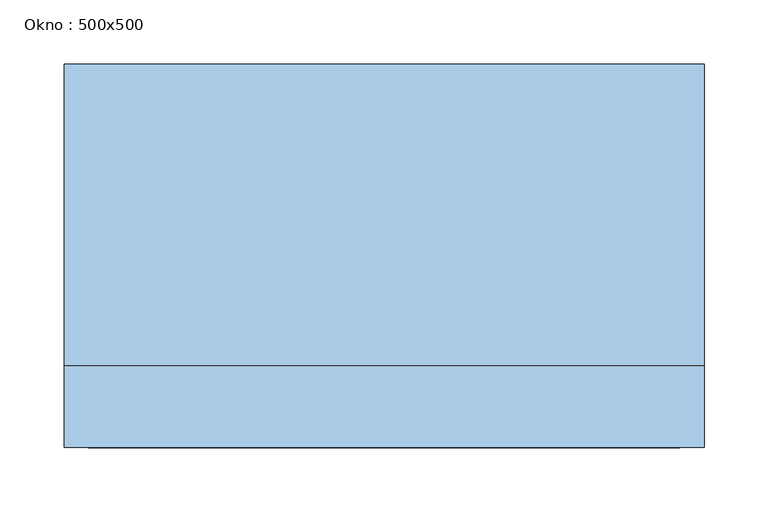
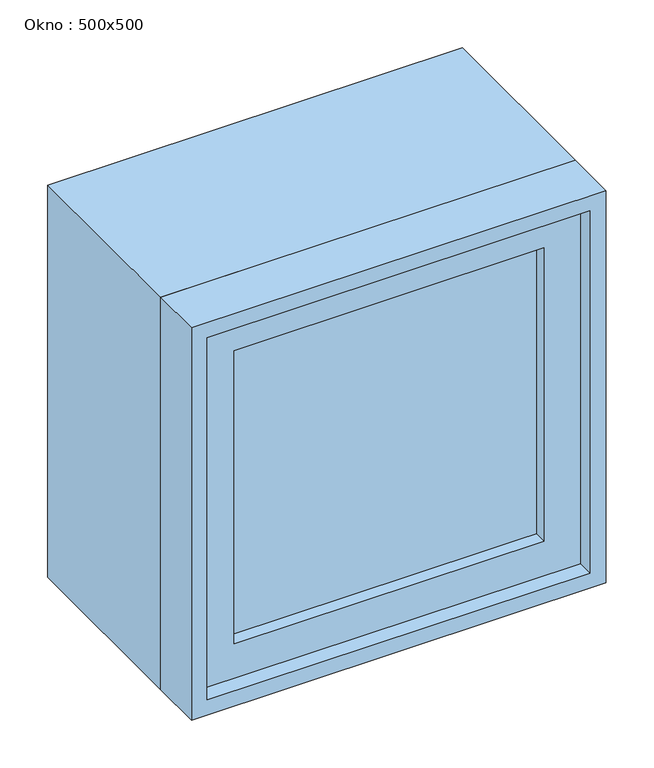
"""IFC4 building model written with IfcOpenShell, lengths in millimetres: window geometry, Okno : 500x500."""

import ifcopenshell
import ifcopenshell.guid

model = None  # the IFC model being written
_history = None  # IfcOwnerHistory: only IFC2X3 demands one
_inside = {}  # id of a spatial element -> (the spatial element, [elements in it])
_under = {}  # id of a project, library or spatial element -> (it, [spatial elements below it])
_declared = {}  # id of a project -> (the project, [libraries it declares])
_typed = {}  # id of a type object -> (the type object, [elements of that type])
_made_of = {}  # id of a material, layer set ... -> (it, [elements and type objects made of it])


def new_model(schema):
    """Start an empty IFC model of exactly this schema.

    Asked for "IFC4X3", IfcOpenShell would pick the latest addendum, in which some entities
    have other attributes; the version numbers below select the first issue.
    IFC2X3 requires an IfcOwnerHistory on every rooted entity: one is made here for all.
    """
    global model, _history
    if schema == "IFC4X3":
        model = ifcopenshell.file(schema_version=(4, 3, 0, 0))
    else:
        model = ifcopenshell.file(schema=schema)
    _inside.clear()
    _under.clear()
    _declared.clear()
    _typed.clear()
    _made_of.clear()
    _history = None
    if model.schema == "IFC2X3":
        org = make("IfcOrganization", Name="unknown")
        user = make(
            "IfcPersonAndOrganization",
            ThePerson=make("IfcPerson", FamilyName="unknown"),
            TheOrganization=org,
        )
        app = make(
            "IfcApplication",
            ApplicationDeveloper=org,
            Version="unknown",
            ApplicationFullName="unknown",
            ApplicationIdentifier="unknown",
        )
        _history = make(
            "IfcOwnerHistory",
            OwningUser=user,
            OwningApplication=app,
            ChangeAction="ADDED",
            CreationDate=0,
        )
    return model


def make(cls, **values):
    """One entity of the class cls with the attributes given. An attribute that is None is left unset."""
    return model.create_entity(
        cls, **{name: value for name, value in values.items() if value is not None}
    )


def rooted(cls, **values):
    """An entity with a GlobalId (a new one), such as an element, a storey or a relation."""
    return make(cls, GlobalId=ifcopenshell.guid.new(), OwnerHistory=_history, **values)


def si_unit(unit_type, name, prefix=None):
    """IfcSIUnit, for example si_unit("LENGTHUNIT", "METRE", prefix="MILLI")."""
    return make("IfcSIUnit", UnitType=unit_type, Prefix=prefix, Name=name)


def assignment(units):
    """IfcUnitAssignment: the units of a project."""
    return None if units is None else make("IfcUnitAssignment", Units=units)


def point(xyz):
    """IfcCartesianPoint."""
    return None if xyz is None else make("IfcCartesianPoint", Coordinates=xyz)


def direction(xyz):
    """IfcDirection."""
    return None if xyz is None else make("IfcDirection", DirectionRatios=xyz)


def frame(location, z_axis=None, x_axis=None):
    """IfcAxis2Placement3D, a coordinate frame: its origin and axes. An axis left out is left unset."""
    return make(
        "IfcAxis2Placement3D",
        Location=point(location),
        Axis=direction(z_axis),
        RefDirection=direction(x_axis),
    )


def origin():
    """The frame at (0, 0, 0) with its axes left unset."""
    return frame((0.0, 0.0, 0.0))


def place(relative_to, where):
    """IfcLocalPlacement: puts the frame where relative to a parent placement (None: the world)."""
    return make(
        "IfcLocalPlacement", PlacementRelTo=relative_to, RelativePlacement=where
    )


def context(
    kind, dimensions, precision=None, world=None, true_north=None, identifier=None
):
    """IfcGeometricRepresentationContext, for example the 3D "Model" context."""
    return make(
        "IfcGeometricRepresentationContext",
        ContextIdentifier=identifier,
        ContextType=kind,
        CoordinateSpaceDimension=dimensions,
        Precision=precision,
        WorldCoordinateSystem=world,
        TrueNorth=true_north,
    )


def project(units=None, contexts=None):
    """IfcProject with its units and contexts."""
    return rooted(
        "IfcProject",
        Name="project",
        RepresentationContexts=contexts,
        UnitsInContext=assignment(units),
    )


def spatial(cls, under=None, at=None, **own):
    """A site, building, storey or space (cls), placed at a placement, below another one or the project."""
    s = rooted(cls, ObjectPlacement=at, **own)
    if under is not None:
        _under.setdefault(under.id(), (under, []))[1].append(s)
    return s


def polyline(points):
    """IfcPolyline through the points."""
    return make("IfcPolyline", Points=[point(p) for p in points])


def outline(outer, holes=None, kind="AREA"):
    """IfcArbitraryClosedProfileDef: a profile drawn as a closed curve; with holes, ...WithVoids."""
    if holes is None:
        return make("IfcArbitraryClosedProfileDef", ProfileType=kind, OuterCurve=outer)
    return make(
        "IfcArbitraryProfileDefWithVoids",
        ProfileType=kind,
        OuterCurve=outer,
        InnerCurves=holes,
    )


def extrude(swept, where, along, depth):
    """IfcExtrudedAreaSolid: the profile swept, set in the frame where, extruded along a direction by depth."""
    return make(
        "IfcExtrudedAreaSolid",
        SweptArea=swept,
        Position=where,
        ExtrudedDirection=direction(along),
        Depth=depth,
    )


def shape(context_of_items, identifier, shape_type, items):
    """IfcShapeRepresentation: the items that make up one representation, for example the "Body"."""
    return make(
        "IfcShapeRepresentation",
        ContextOfItems=context_of_items,
        RepresentationIdentifier=identifier,
        RepresentationType=shape_type,
        Items=items,
    )


def source(mapping_origin, context_of_items, identifier, shape_type, items):
    """IfcRepresentationMap: a shape defined once, which mapped items show again and again."""
    return make(
        "IfcRepresentationMap",
        MappingOrigin=mapping_origin,
        MappedRepresentation=shape(context_of_items, identifier, shape_type, items),
    )


def transform(
    local_origin,
    x_axis=None,
    y_axis=None,
    z_axis=None,
    scale=None,
    scale2=None,
    scale3=None,
    uniform=True,
):
    """IfcCartesianTransformationOperator3D, or its non-uniform kind. x_axis, y_axis, z_axis: its Axis1, 2, 3."""
    if uniform:
        return make(
            "IfcCartesianTransformationOperator3D",
            Axis1=direction(x_axis),
            Axis2=direction(y_axis),
            LocalOrigin=point(local_origin),
            Scale=scale,
            Axis3=direction(z_axis),
        )
    return make(
        "IfcCartesianTransformationOperator3DnonUniform",
        Axis1=direction(x_axis),
        Axis2=direction(y_axis),
        LocalOrigin=point(local_origin),
        Scale=scale,
        Axis3=direction(z_axis),
        Scale2=scale2,
        Scale3=scale3,
    )


def mapped(mapping_source, mapping_target):
    """IfcMappedItem: shows the shape of a source again, moved by a transform."""
    return make(
        "IfcMappedItem", MappingSource=mapping_source, MappingTarget=mapping_target
    )


def made_of(thing, what):
    """Note that an element or type object is made of a material, layer set ...; save() writes the relation."""
    if what is not None:
        _made_of.setdefault(what.id(), (what, []))[1].append(thing)
    return thing


def element(
    cls,
    number,
    at=None,
    inside=None,
    cuts=None,
    type_object=None,
    material=None,
    context=None,
    identifier="Body",
    shape_type=None,
    held_by="IfcProductDefinitionShape",
    body=None,
    shapes=None,
    **own,
):
    """One element of the class cls, such as IfcWall. Its Tag is "e" and its number.

    at: its placement. inside: the storey or other place that contains it. cuts: it is an
    opening in that element (IfcRelVoidsElement). A single representation is given by context,
    identifier, shape_type and body (its items); several are given by shapes. held_by: the class
    of the entity that holds the representations. save() writes the other relations.
    """
    e = rooted(cls, Tag="e%d" % number, ObjectPlacement=at, **own)
    if body is not None:
        shapes = [shape(context, identifier, shape_type, body)]
    if shapes is not None:
        e.Representation = make(held_by, Representations=shapes)
    if inside is not None:
        _inside.setdefault(inside.id(), (inside, []))[1].append(e)
    if cuts is not None:
        rooted(
            "IfcRelVoidsElement", RelatingBuildingElement=cuts, RelatedOpeningElement=e
        )
    if type_object is not None:
        _typed.setdefault(type_object.id(), (type_object, []))[1].append(e)
    return made_of(e, material)


def aggregate(whole, parts):
    """IfcRelAggregates: a whole, such as a stair, and the parts it consists of."""
    return rooted("IfcRelAggregates", RelatingObject=whole, RelatedObjects=parts)


def save(model, path):
    """Write the relations noted so far, then the file.

    IfcRelAggregates (storeys below a building ...), IfcRelContainedInSpatialStructure (elements
    in a storey), IfcRelDefinesByType, IfcRelAssociatesMaterial and IfcRelDeclares: one each for
    every whole, place, type object, material and project.
    """
    for whole, parts in _under.values():
        aggregate(whole, parts)
    for where, things in _inside.values():
        rooted(
            "IfcRelContainedInSpatialStructure",
            RelatedElements=things,
            RelatingStructure=where,
        )
    for kind, things in _typed.values():
        rooted("IfcRelDefinesByType", RelatedObjects=things, RelatingType=kind)
    for what, things in _made_of.values():
        rooted("IfcRelAssociatesMaterial", RelatedObjects=things, RelatingMaterial=what)
    for by, libraries in _declared.values():
        rooted("IfcRelDeclares", RelatingContext=by, RelatedDefinitions=libraries)
    model.write(path)


def okno_500x500_607495a5(model_context):
    return source(origin(), model_context, "Body", "SweptSolid", [
        extrude(outline(polyline([(-187.0, -127.0), (-187.0, -115.0), (187.0, -115.0), (187.0, -127.0), (-187.0, -127.0)])), frame((0.0, 0.0, 63.0), z_axis=(0.0, 0.0, 1.0), x_axis=(1.0, 0.0, 0.0)), (0.0, 0.0, 1.0), 374.0),
        extrude(outline(polyline([(481.0, -231.0), (19.0, -231.0), (19.0, 231.0), (481.0, 231.0), (481.0, -231.0)]), holes=[polyline([(437.0, -187.0), (437.0, 187.0), (63.0, 187.0), (63.0, -187.0), (437.0, -187.0)])]), frame((0.0, -143.0, 0.0), z_axis=(0.0, 1.0, 0.0), x_axis=(0.0, 0.0, 1.0)), (0.0, 0.0, 1.0), 44.0),
        extrude(outline(polyline([(500.0, -250.0), (0.0, -250.0), (0.0, 250.0), (500.0, 250.0), (500.0, -250.0)]), holes=[polyline([(481.0, -231.0), (481.0, 231.0), (19.0, 231.0), (19.0, -231.0), (481.0, -231.0)])]), frame((0.0, -163.0, 0.0), z_axis=(0.0, 1.0, 0.0), x_axis=(0.0, 0.0, 1.0)), (0.0, 0.0, 1.0), 64.0),
        extrude(outline(polyline([(500.0, -250.0), (0.0, -250.0), (0.0, 250.0), (500.0, 250.0), (500.0, -250.0)]), holes=[polyline([(468.0, -218.0), (468.0, 218.0), (32.0, 218.0), (32.0, -218.0), (468.0, -218.0)])]), frame((0.0, -99.0, 0.0), z_axis=(0.0, 1.0, 0.0), x_axis=(0.0, 0.0, 1.0)), (0.0, 0.0, 1.0), 236.0),
    ])


if __name__ == "__main__":
    model = new_model("IFC4")
    model_context = context("Model", 3, world=origin())
    ifc_project = project(units=[si_unit("LENGTHUNIT", "METRE", prefix="MILLI")], contexts=[model_context])
    site = spatial("IfcSite", under=ifc_project)
    building = spatial("IfcBuilding", under=site)
    placement = place(None, origin())
    okno_500x500_shape = okno_500x500_607495a5(model_context)
    element("IfcWindow", 1, ObjectType="Okno : 500x500", at=placement, inside=building, context=model_context, shape_type="MappedRepresentation", body=[
        mapped(okno_500x500_shape, transform((0.0, 0.0, 0.0), x_axis=(1.0, 0.0, 0.0), y_axis=(0.0, 1.0, 0.0), z_axis=(0.0, 0.0, 1.0))),
    ])
    save(model, "model.ifc")
